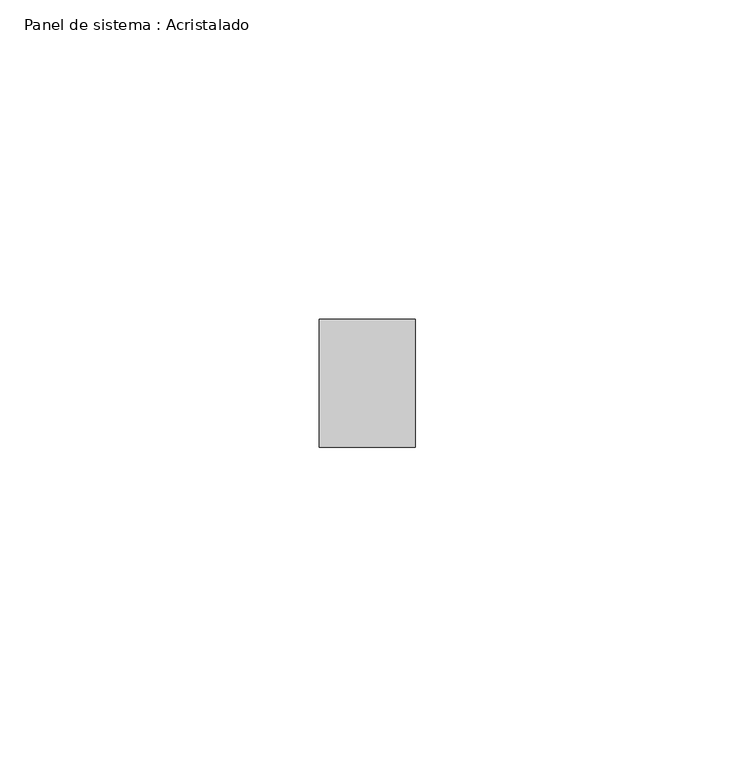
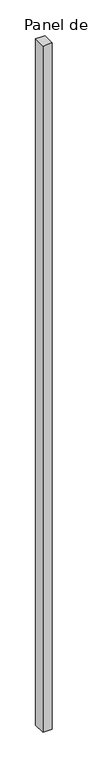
"""IFC4 building model written with IfcOpenShell, lengths in millimetres: plate geometry, Panel de sistema : Acristalado."""

from ifc_helpers import new_model, si_unit, origin, origin_with_axes, place, context, project, spatial, polyline, outline, extrude, source, transform, mapped, element, save


def panel_de_sistema_acristalado_6f767101(model_context):
    return source(origin(), model_context, "Body", "SweptSolid", [
        extrude(outline(polyline([(7.5, -10.0), (-7.5, -10.0), (-7.5, 10.0), (7.5, 10.0), (7.5, -10.0)])), origin_with_axes(), (0.0, 0.0, 1.0), 1168.25),
    ])


if __name__ == "__main__":
    model = new_model("IFC4")
    model_context = context("Model", 3, world=origin())
    ifc_project = project(units=[si_unit("LENGTHUNIT", "METRE", prefix="MILLI")], contexts=[model_context])
    site = spatial("IfcSite", under=ifc_project)
    building = spatial("IfcBuilding", under=site)
    placement = place(None, origin())
    panel_de_sistema_acristalado_shape = panel_de_sistema_acristalado_6f767101(model_context)
    element("IfcPlate", 1, ObjectType="Panel de sistema : Acristalado", at=placement, inside=building, context=model_context, shape_type="MappedRepresentation", body=[
        mapped(panel_de_sistema_acristalado_shape, transform((0.0, 0.0, 0.0), x_axis=(1.0, 0.0, 0.0), y_axis=(0.0, 1.0, 0.0), z_axis=(0.0, 0.0, 1.0))),
    ])
    save(model, "model.ifc")
